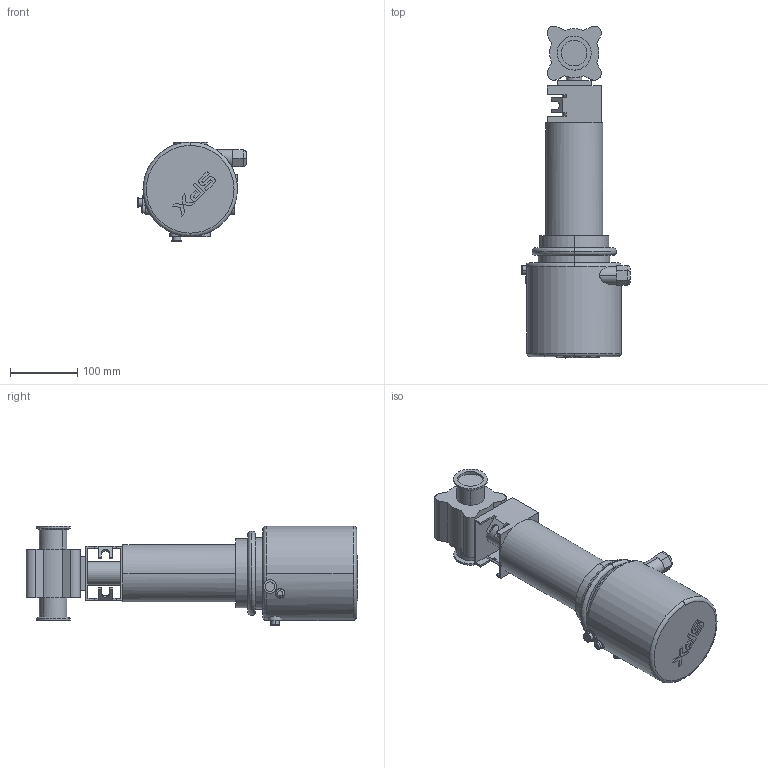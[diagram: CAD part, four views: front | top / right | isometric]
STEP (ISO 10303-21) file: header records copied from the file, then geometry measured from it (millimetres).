
FILE_DESCRIPTION(('Creo Elements/Direct Modeling STEP Export'),'2;1');
FILE_NAME('BLV1-DN40-NC-12CL-CU4.stp','2019-05-09T14:10:15',(''),(''),'Creo Elements/Direct Modeling STEP processor for AP214 (Solid Model)','Creo Elements/Direct Modeling 19.0F 14-Feb-2017 (C) Parametric Technology GmbH','');
FILE_SCHEMA(('AUTOMOTIVE_DESIGN { 1 0 10303 214 1 1 1 1 }'));
Length unit declared in the file: millimetre
Products named in the file (2): BLV1-DN40-NC-12CL-CU4
Assembly tree (1 placements, depth 2):
  BLV1-DN40-NC-12CL-CU4
    BLV1-DN40-NC-12CL-CU4
Bounding box: 161.4 x 492.24 x 148 mm (x, y, z)
Volume: 4058261.8 mm3; surface area: 252894.2 mm2
Topology: 1 solids, 1 shells, 235 faces, 605 edges, 396 vertices
Faces by surface type: plane 104, cylinder 84, extrusion 33, torus 10, revolution 4
Entity records: 10547 total; most frequent: CARTESIAN_POINT 5200, ORIENTED_EDGE 1212, DIRECTION 928, EDGE_CURVE 606, VERTEX_POINT 396, VECTOR 316, AXIS2_PLACEMENT_3D 304, LINE 283
